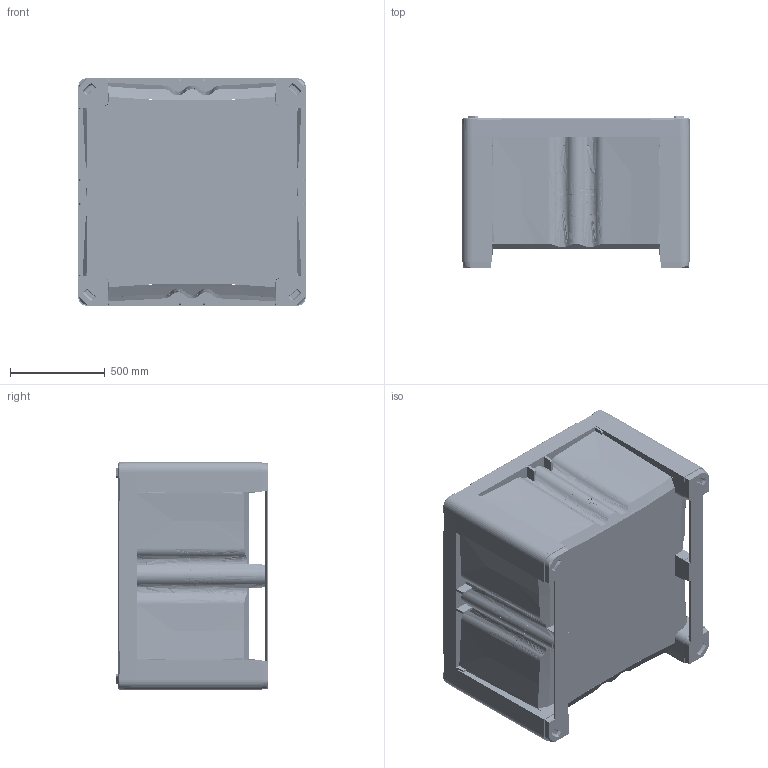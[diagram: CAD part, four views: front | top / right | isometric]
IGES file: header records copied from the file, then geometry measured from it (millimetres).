
Start section: SolidWorks IGES file using analytic representation for surfaces
Global section: file name: C:\ProdVault\Production Data\Hybrid 1212\1112xxxxxxxx 1212-790 Hybrid Block 4way.IGS; native system: SolidWorks 2018; preprocessor: SolidWorks 2018; author: Todd Turner; date: 180828.191947; units: millimetre
Bounding box: 1200 x 802.5 x 1200 mm (x, y, z)
Surface area: 10976938.7 mm2 (no closed solid volume)
Topology: 0 solids, 0 shells, 6197 faces, 101663 edges, 101634 vertices
Faces by surface type: bspline 5679, revolution 518
